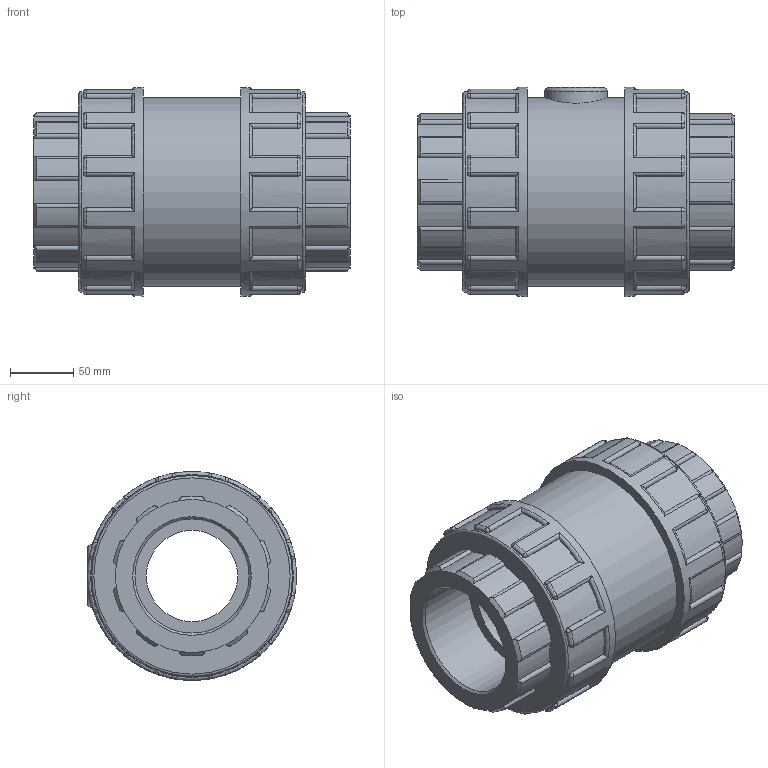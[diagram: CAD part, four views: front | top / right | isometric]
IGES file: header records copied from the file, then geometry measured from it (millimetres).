
Global section: file name: 11080090.ipt; native system: Autodesk Inventor 2015; preprocessor: unknown; author: KIM; date: 20171207.170037; units: millimetre
Bounding box: 250 x 165 x 165 mm (x, y, z)
Volume: 3030667.9 mm3; surface area: 224337.6 mm2
Topology: 1 solids, 1 shells, 411 faces, 1033 edges, 630 vertices
Faces by surface type: cylinder 182, plane 105, revolution 56, sphere 48, cone 20
Full cylindrical faces by diameter (mm): 49.5 x1, 148.5 x1, 158.4 x2, 165 x2
